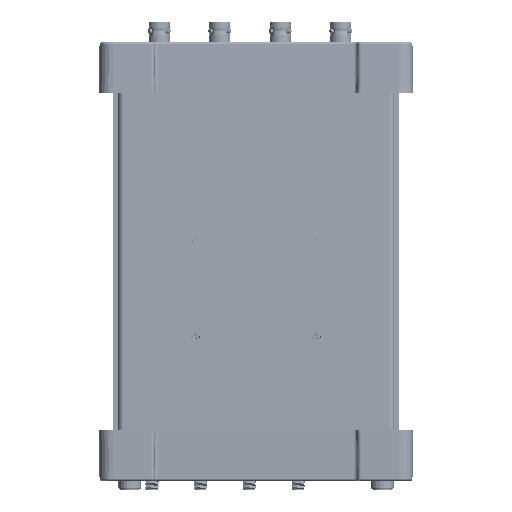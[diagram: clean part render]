
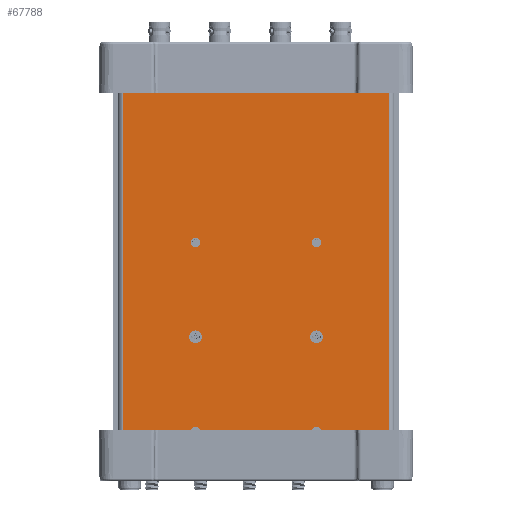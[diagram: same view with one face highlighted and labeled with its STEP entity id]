
A CAD part, top view. The second image highlights one B-rep face of the part: STEP entity #67788.
In plain terms, the highlighted planar face has unit normal (0, 0, 1) as drawn and (0, 0, -1) by its records, which use the part's own axes.
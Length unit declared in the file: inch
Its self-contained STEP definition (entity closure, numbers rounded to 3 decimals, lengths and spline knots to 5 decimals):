
#66999=DIRECTION('',(1.,0.,0.));
#67000=VECTOR('',#66999,4.714);
#67001=CARTESIAN_POINT('',(-2.357,-3.6615,0.));
#67002=LINE('',#67001,#67000);
#67003=DIRECTION('',(-1.,0.,0.));
#67004=VECTOR('',#67003,4.714);
#67005=CARTESIAN_POINT('',(2.357,3.6615,0.));
#67006=LINE('',#67005,#67004);
#67007=CARTESIAN_POINT('',(-1.0745,-1.3385,0.));
#67008=DIRECTION('',(0.,0.,1.));
#67009=DIRECTION('',(0.,1.,0.));
#67010=AXIS2_PLACEMENT_3D('',#67007,#67008,#67009);
#67012=CARTESIAN_POINT('',(-1.0745,-1.3385,0.));
#67013=DIRECTION('',(0.,0.,1.));
#67014=DIRECTION('',(0.,-1.,0.));
#67015=AXIS2_PLACEMENT_3D('',#67012,#67013,#67014);
#67017=CARTESIAN_POINT('',(1.0755,-1.3385,0.));
#67018=DIRECTION('',(0.,0.,1.));
#67019=DIRECTION('',(0.,-1.,0.));
#67020=AXIS2_PLACEMENT_3D('',#67017,#67018,#67019);
#67022=CARTESIAN_POINT('',(1.0755,-1.3385,0.));
#67023=DIRECTION('',(0.,0.,1.));
#67024=DIRECTION('',(0.,1.,0.));
#67025=AXIS2_PLACEMENT_3D('',#67022,#67023,#67024);
#67027=DIRECTION('',(-1.,0.,0.));
#67028=VECTOR('',#67027,0.925);
#67029=CARTESIAN_POINT('',(0.4625,-3.5515,0.));
#67030=LINE('',#67029,#67028);
#67031=DIRECTION('',(0.,1.,0.));
#67032=VECTOR('',#67031,0.125);
#67033=CARTESIAN_POINT('',(-0.4625,-3.5515,0.));
#67034=LINE('',#67033,#67032);
#67035=DIRECTION('',(1.,0.,0.));
#67036=VECTOR('',#67035,0.925);
#67037=CARTESIAN_POINT('',(-0.4625,-3.4265,0.));
#67038=LINE('',#67037,#67036);
#67039=DIRECTION('',(0.,-1.,0.));
#67040=VECTOR('',#67039,0.125);
#67041=CARTESIAN_POINT('',(0.4625,-3.4265,0.));
#67042=LINE('',#67041,#67040);
#67043=CARTESIAN_POINT('',(-1.0745,-3.0165,0.));
#67044=DIRECTION('',(0.,0.,1.));
#67045=DIRECTION('',(0.,-1.,0.));
#67046=AXIS2_PLACEMENT_3D('',#67043,#67044,#67045);
#67048=CARTESIAN_POINT('',(-1.0745,-3.0165,0.));
#67049=DIRECTION('',(0.,0.,1.));
#67050=DIRECTION('',(0.,1.,0.));
#67051=AXIS2_PLACEMENT_3D('',#67048,#67049,#67050);
#67053=CARTESIAN_POINT('',(1.0755,-3.0165,0.));
#67054=DIRECTION('',(0.,0.,1.));
#67055=DIRECTION('',(0.,-1.,0.));
#67056=AXIS2_PLACEMENT_3D('',#67053,#67054,#67055);
#67058=CARTESIAN_POINT('',(1.0755,-3.0165,0.));
#67059=DIRECTION('',(0.,0.,1.));
#67060=DIRECTION('',(0.,1.,0.));
#67061=AXIS2_PLACEMENT_3D('',#67058,#67059,#67060);
#67063=CARTESIAN_POINT('',(1.0755,0.3385,0.));
#67064=DIRECTION('',(0.,0.,1.));
#67065=DIRECTION('',(0.,-1.,0.));
#67066=AXIS2_PLACEMENT_3D('',#67063,#67064,#67065);
#67068=CARTESIAN_POINT('',(1.0755,0.3385,0.));
#67069=DIRECTION('',(0.,0.,1.));
#67070=DIRECTION('',(0.,1.,0.));
#67071=AXIS2_PLACEMENT_3D('',#67068,#67069,#67070);
#67073=CARTESIAN_POINT('',(-1.0745,0.3385,0.));
#67074=DIRECTION('',(0.,0.,1.));
#67075=DIRECTION('',(0.,-1.,0.));
#67076=AXIS2_PLACEMENT_3D('',#67073,#67074,#67075);
#67078=CARTESIAN_POINT('',(-1.0745,0.3385,0.));
#67079=DIRECTION('',(0.,0.,1.));
#67080=DIRECTION('',(0.,1.,0.));
#67081=AXIS2_PLACEMENT_3D('',#67078,#67079,#67080);
#67101=DIRECTION('',(0.,-1.,0.));
#67102=VECTOR('',#67101,7.323);
#67103=CARTESIAN_POINT('',(-2.357,3.6615,0.));
#67104=LINE('',#67103,#67102);
#67137=DIRECTION('',(0.,1.,0.));
#67138=VECTOR('',#67137,7.323);
#67139=CARTESIAN_POINT('',(2.357,-3.6615,0.));
#67140=LINE('',#67139,#67138);
#67567=CARTESIAN_POINT('',(-1.0745,-1.2255,0.));
#67568=CARTESIAN_POINT('',(-1.0745,-1.4515,0.));
#67569=VERTEX_POINT('',#67567);
#67570=VERTEX_POINT('',#67568);
#67575=CARTESIAN_POINT('',(1.0755,-1.4515,0.));
#67576=CARTESIAN_POINT('',(1.0755,-1.2255,0.));
#67577=VERTEX_POINT('',#67575);
#67578=VERTEX_POINT('',#67576);
#67583=CARTESIAN_POINT('',(2.357,-3.6615,0.));
#67585=VERTEX_POINT('',#67583);
#67587=CARTESIAN_POINT('',(2.357,3.6615,0.));
#67589=VERTEX_POINT('',#67587);
#67599=CARTESIAN_POINT('',(-2.357,-3.6615,0.));
#67600=VERTEX_POINT('',#67599);
#67601=CARTESIAN_POINT('',(-2.357,3.6615,0.));
#67603=VERTEX_POINT('',#67601);
#67679=CARTESIAN_POINT('',(0.4625,-3.5515,0.));
#67680=CARTESIAN_POINT('',(-0.4625,-3.5515,0.));
#67681=VERTEX_POINT('',#67679);
#67682=VERTEX_POINT('',#67680);
#67683=CARTESIAN_POINT('',(-0.4625,-3.4265,0.));
#67684=VERTEX_POINT('',#67683);
#67685=CARTESIAN_POINT('',(0.4625,-3.4265,0.));
#67686=VERTEX_POINT('',#67685);
#67695=CARTESIAN_POINT('',(-1.0745,-3.0995,0.));
#67696=CARTESIAN_POINT('',(-1.0745,-2.9335,0.));
#67697=VERTEX_POINT('',#67695);
#67698=VERTEX_POINT('',#67696);
#67699=CARTESIAN_POINT('',(1.0755,-3.0995,0.));
#67700=CARTESIAN_POINT('',(1.0755,-2.9335,0.));
#67701=VERTEX_POINT('',#67699);
#67702=VERTEX_POINT('',#67700);
#67703=CARTESIAN_POINT('',(1.0755,0.2555,0.));
#67704=CARTESIAN_POINT('',(1.0755,0.4215,0.));
#67705=VERTEX_POINT('',#67703);
#67706=VERTEX_POINT('',#67704);
#67707=CARTESIAN_POINT('',(-1.0745,0.2555,0.));
#67708=CARTESIAN_POINT('',(-1.0745,0.4215,0.));
#67709=VERTEX_POINT('',#67707);
#67710=VERTEX_POINT('',#67708);
#67727=CARTESIAN_POINT('',(0.,0.,0.));
#67728=DIRECTION('',(0.,0.,1.));
#67729=DIRECTION('',(1.,0.,0.));
#67730=AXIS2_PLACEMENT_3D('',#67727,#67728,#67729);
#67731=PLANE('',#67730);
#67733=ORIENTED_EDGE('',*,*,#67732,.T.);
#67735=ORIENTED_EDGE('',*,*,#67734,.T.);
#67737=ORIENTED_EDGE('',*,*,#67736,.T.);
#67739=ORIENTED_EDGE('',*,*,#67738,.T.);
#67740=EDGE_LOOP('',(#67733,#67735,#67737,#67739));
#67741=FACE_OUTER_BOUND('',#67740,.F.);
#67743=ORIENTED_EDGE('',*,*,#67742,.F.);
#67745=ORIENTED_EDGE('',*,*,#67744,.F.);
#67746=EDGE_LOOP('',(#67743,#67745));
#67747=FACE_BOUND('',#67746,.F.);
#67749=ORIENTED_EDGE('',*,*,#67748,.F.);
#67751=ORIENTED_EDGE('',*,*,#67750,.F.);
#67752=EDGE_LOOP('',(#67749,#67751));
#67753=FACE_BOUND('',#67752,.F.);
#67755=ORIENTED_EDGE('',*,*,#67754,.T.);
#67757=ORIENTED_EDGE('',*,*,#67756,.T.);
#67759=ORIENTED_EDGE('',*,*,#67758,.T.);
#67761=ORIENTED_EDGE('',*,*,#67760,.T.);
#67762=EDGE_LOOP('',(#67755,#67757,#67759,#67761));
#67763=FACE_BOUND('',#67762,.F.);
#67765=ORIENTED_EDGE('',*,*,#67764,.F.);
#67767=ORIENTED_EDGE('',*,*,#67766,.F.);
#67768=EDGE_LOOP('',(#67765,#67767));
#67769=FACE_BOUND('',#67768,.F.);
#67771=ORIENTED_EDGE('',*,*,#67770,.F.);
#67773=ORIENTED_EDGE('',*,*,#67772,.F.);
#67774=EDGE_LOOP('',(#67771,#67773));
#67775=FACE_BOUND('',#67774,.F.);
#67777=ORIENTED_EDGE('',*,*,#67776,.F.);
#67779=ORIENTED_EDGE('',*,*,#67778,.F.);
#67780=EDGE_LOOP('',(#67777,#67779));
#67781=FACE_BOUND('',#67780,.F.);
#67783=ORIENTED_EDGE('',*,*,#67782,.F.);
#67785=ORIENTED_EDGE('',*,*,#67784,.F.);
#67786=EDGE_LOOP('',(#67783,#67785));
#67787=FACE_BOUND('',#67786,.F.);
#67788=ADVANCED_FACE('',(#67741,#67747,#67753,#67763,#67769,#67775,#67781,
#67787),#67731,.F.);
#67011=CIRCLE('',#67010,0.113);
#67016=CIRCLE('',#67015,0.113);
#67021=CIRCLE('',#67020,0.113);
#67026=CIRCLE('',#67025,0.113);
#67047=CIRCLE('',#67046,0.083);
#67052=CIRCLE('',#67051,0.083);
#67057=CIRCLE('',#67056,0.083);
#67062=CIRCLE('',#67061,0.083);
#67067=CIRCLE('',#67066,0.083);
#67072=CIRCLE('',#67071,0.083);
#67077=CIRCLE('',#67076,0.083);
#67082=CIRCLE('',#67081,0.083);
#67732=EDGE_CURVE('',#67600,#67585,#67002,.T.);
#67734=EDGE_CURVE('',#67585,#67589,#67140,.T.);
#67736=EDGE_CURVE('',#67589,#67603,#67006,.T.);
#67738=EDGE_CURVE('',#67603,#67600,#67104,.T.);
#67742=EDGE_CURVE('',#67569,#67570,#67011,.T.);
#67744=EDGE_CURVE('',#67570,#67569,#67016,.T.);
#67748=EDGE_CURVE('',#67577,#67578,#67021,.T.);
#67750=EDGE_CURVE('',#67578,#67577,#67026,.T.);
#67754=EDGE_CURVE('',#67681,#67682,#67030,.T.);
#67756=EDGE_CURVE('',#67682,#67684,#67034,.T.);
#67758=EDGE_CURVE('',#67684,#67686,#67038,.T.);
#67760=EDGE_CURVE('',#67686,#67681,#67042,.T.);
#67764=EDGE_CURVE('',#67697,#67698,#67047,.T.);
#67766=EDGE_CURVE('',#67698,#67697,#67052,.T.);
#67770=EDGE_CURVE('',#67701,#67702,#67057,.T.);
#67772=EDGE_CURVE('',#67702,#67701,#67062,.T.);
#67776=EDGE_CURVE('',#67705,#67706,#67067,.T.);
#67778=EDGE_CURVE('',#67706,#67705,#67072,.T.);
#67782=EDGE_CURVE('',#67709,#67710,#67077,.T.);
#67784=EDGE_CURVE('',#67710,#67709,#67082,.T.);
